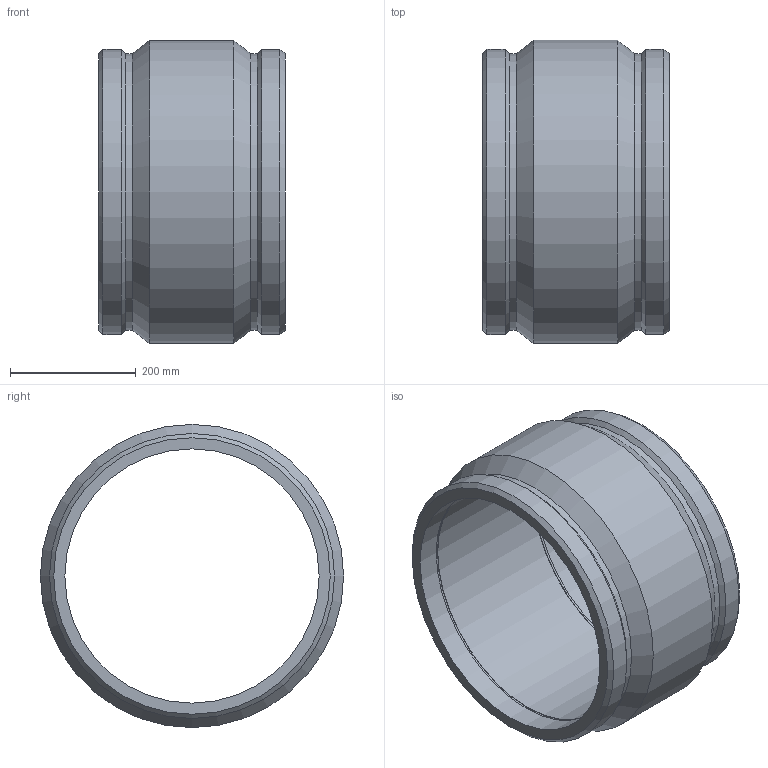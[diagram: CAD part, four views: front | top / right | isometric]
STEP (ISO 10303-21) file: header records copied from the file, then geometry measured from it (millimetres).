
FILE_DESCRIPTION(/* description */ ('PLASSON IPS COUPLER 16'''''),/* implementation_level */ '2;1');
FILE_NAME(/* name */ 'C:\Dropbox\KIMPROJECTS-Inventor 2019\99-16-3568-Processing Inch\ASTM ElectroFusion 2021\5901B\5901B003160.ipt.stp',/* time_stamp */ '2021-08-30T09:48:41+03:00',/* author */ ('KIM'),/* organization */ (''),/* preprocessor_version */ 'ST-DEVELOPER v17.2',/* originating_system */ 'Autodesk Inventor 2019',/* authorisation */ '');
FILE_SCHEMA (('AUTOMOTIVE_DESIGN { 1 0 10303 214 3 1 1 }'));
Length unit declared in the file: inch
Products named in the file (1): 5901B003160
Bounding box: 297.18 x 482.6 x 482.6 mm (x, y, z)
Volume: 12628608.4 mm3; surface area: 900069.4 mm2
Topology: 1 solids, 1 shells, 32 faces, 76 edges, 54 vertices
Faces by surface type: cylinder 12, plane 10, cone 10
Full cylindrical faces by diameter (mm): 4 x2, 10 x2, 404.6 x3, 440.035 x2, 453.644 x2, 482.6 x1
Entity records: 1077 total; most frequent: CARTESIAN_POINT 231, DIRECTION 188, ORIENTED_EDGE 152, AXIS2_PLACEMENT_3D 83, EDGE_CURVE 76, VERTEX_POINT 54, CIRCLE 50, EDGE_LOOP 42
